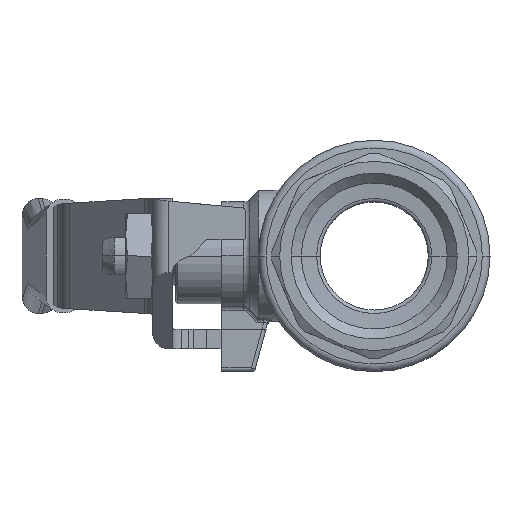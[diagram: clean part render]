
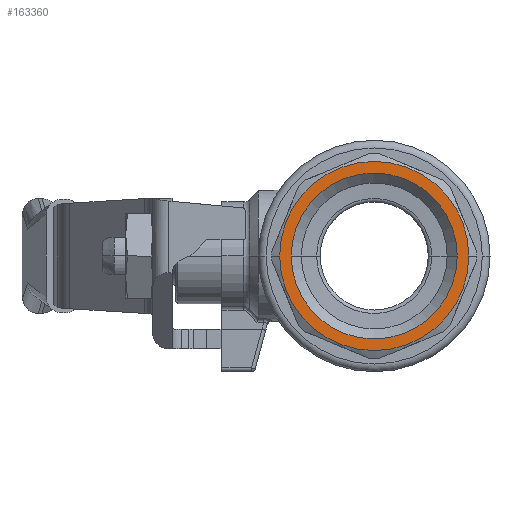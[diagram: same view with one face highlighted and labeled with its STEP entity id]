
A CAD part, left-side view. The second image highlights one B-rep face of the part: STEP entity #163360.
In plain terms, the highlighted planar face has unit normal (-1, 0, 0) as drawn and (1, 0, 0) by its records, which use the part's own axes.
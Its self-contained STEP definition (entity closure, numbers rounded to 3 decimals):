
#162880=CARTESIAN_POINT('',(23.75,-10.75,
0.));
#162890=VERTEX_POINT('',#162880);
#162920=CARTESIAN_POINT('',(23.75,0.,
0.));
#162930=DIRECTION('',(1.,0.,0.));
#162940=DIRECTION('',(0.,-1.,0.));
#162950=AXIS2_PLACEMENT_3D('',#162920,#162930,#162940);
#162960=CIRCLE('',#162950,10.75);
#162970=CARTESIAN_POINT('',(23.75,10.75,0.
));
#162980=VERTEX_POINT('',#162970);
#162990=EDGE_CURVE('',#162980,#162890,#162960,.T.);
#163110=CARTESIAN_POINT('',(23.75,-11.5,
0.));
#163120=DIRECTION('',(-1.,0.,0.));
#163130=DIRECTION('',(0.,-1.,0.));
#163140=AXIS2_PLACEMENT_3D('',#163110,#163120,#163130);
#163150=PLANE('',#163140);
#163160=EDGE_CURVE('',#162890,#162980,#162960,.T.);
#163170=ORIENTED_EDGE('',*,*,#163160,.F.);
#163180=ORIENTED_EDGE('',*,*,#162990,.F.);
#163190=EDGE_LOOP('',(#163180,#163170));
#163200=FACE_BOUND('',#163190,.T.);
#163210=CARTESIAN_POINT('',(23.75,0.,
0.));
#163220=DIRECTION('',(1.,0.,0.));
#163230=DIRECTION('',(0.,-1.,0.));
#163240=AXIS2_PLACEMENT_3D('',#163210,#163220,#163230);
#163250=CIRCLE('',#163240,12.25);
#163260=CARTESIAN_POINT('',(23.75,-12.25,
0.));
#163270=VERTEX_POINT('',#163260);
#163280=CARTESIAN_POINT('',(23.75,12.25,
0.));
#163290=VERTEX_POINT('',#163280);
#163300=EDGE_CURVE('',#163270,#163290,#163250,.T.);
#163310=ORIENTED_EDGE('',*,*,#163300,.T.);
#163320=EDGE_CURVE('',#163290,#163270,#163250,.T.);
#163330=ORIENTED_EDGE('',*,*,#163320,.T.);
#163340=EDGE_LOOP('',(#163330,#163310));
#163350=FACE_OUTER_BOUND('',#163340,.T.);
#163360=ADVANCED_FACE('',(#163200,#163350),#163150,.F.);
